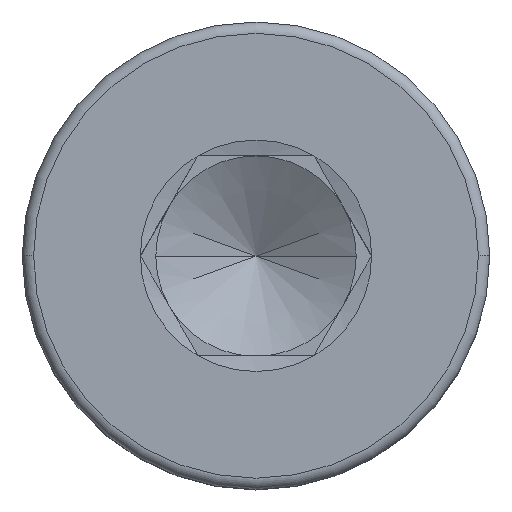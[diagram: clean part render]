
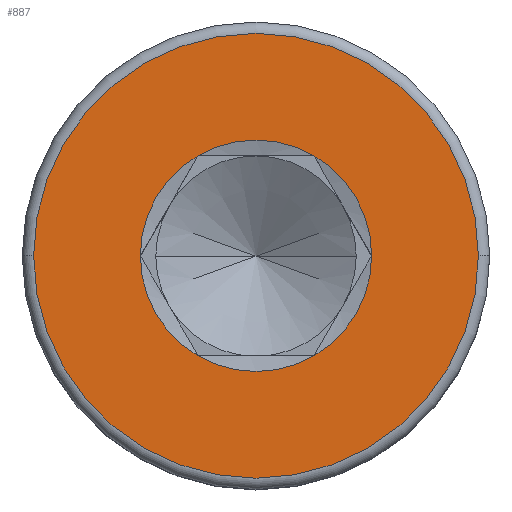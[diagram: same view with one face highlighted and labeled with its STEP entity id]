
A CAD part, top view. The second image highlights one B-rep face of the part: STEP entity #887.
In plain terms, the highlighted planar face has unit normal (0, 0, 1).
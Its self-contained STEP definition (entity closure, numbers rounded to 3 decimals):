
#12 = AXIS2_PLACEMENT_3D ( 'NONE', #1348, #251, #100 ) ;
#28 = DIRECTION ( 'NONE',  ( 0., 0., 1. ) ) ;
#46 = DIRECTION ( 'NONE',  ( 0., 0., 1. ) ) ;
#51 = AXIS2_PLACEMENT_3D ( 'NONE', #1787, #417, #526 ) ;
#59 = CARTESIAN_POINT ( 'NONE',  ( 0., 0., 4. ) ) ;
#64 = CIRCLE ( 'NONE', #1684, 1.732 ) ;
#100 = DIRECTION ( 'NONE',  ( 1., 0., 0. ) ) ;
#127 = EDGE_CURVE ( 'NONE', #1105, #238, #1625, .T. ) ;
#144 = VERTEX_POINT ( 'NONE', #433 ) ;
#161 = AXIS2_PLACEMENT_3D ( 'NONE', #707, #772, #488 ) ;
#211 = EDGE_LOOP ( 'NONE', ( #1775, #1643 ) ) ;
#233 = AXIS2_PLACEMENT_3D ( 'NONE', #59, #46, #464 ) ;
#235 = FACE_OUTER_BOUND ( 'NONE', #211, .T. ) ;
#238 = VERTEX_POINT ( 'NONE', #329 ) ;
#251 = DIRECTION ( 'NONE',  ( 0., 0., 1. ) ) ;
#275 = DIRECTION ( 'NONE',  ( 1., 0., 0. ) ) ;
#300 = DIRECTION ( 'NONE',  ( 1., 0., 0. ) ) ;
#321 = CARTESIAN_POINT ( 'NONE',  ( 0., 0., 4. ) ) ;
#329 = CARTESIAN_POINT ( 'NONE',  ( -1.732, 0., 4. ) ) ;
#341 = CIRCLE ( 'NONE', #600, 1.732 ) ;
#342 = CARTESIAN_POINT ( 'NONE',  ( -3.33, 0., 4. ) ) ;
#385 = DIRECTION ( 'NONE',  ( 0., 0., 1. ) ) ;
#417 = DIRECTION ( 'NONE',  ( 0., 0., 1. ) ) ;
#433 = CARTESIAN_POINT ( 'NONE',  ( 0.866, -1.5, 4. ) ) ;
#442 = VERTEX_POINT ( 'NONE', #1772 ) ;
#457 = AXIS2_PLACEMENT_3D ( 'NONE', #673, #28, #701 ) ;
#464 = DIRECTION ( 'NONE',  ( 1., 0., 0. ) ) ;
#465 = CIRCLE ( 'NONE', #161, 3.33 ) ;
#488 = DIRECTION ( 'NONE',  ( 1., 0., 0. ) ) ;
#526 = DIRECTION ( 'NONE',  ( 1., 0., 0. ) ) ;
#599 = EDGE_CURVE ( 'NONE', #784, #1105, #1398, .T. ) ;
#600 = AXIS2_PLACEMENT_3D ( 'NONE', #1530, #385, #275 ) ;
#625 = ORIENTED_EDGE ( 'NONE', *, *, #1235, .F. ) ;
#647 = CARTESIAN_POINT ( 'NONE',  ( -0.866, -1.5, 4. ) ) ;
#665 = ORIENTED_EDGE ( 'NONE', *, *, #127, .F. ) ;
#668 = EDGE_CURVE ( 'NONE', #238, #913, #1006, .T. ) ;
#673 = CARTESIAN_POINT ( 'NONE',  ( 0., 0., 4. ) ) ;
#697 = VERTEX_POINT ( 'NONE', #1162 ) ;
#701 = DIRECTION ( 'NONE',  ( 1., 0., 0. ) ) ;
#705 = DIRECTION ( 'NONE',  ( 1., 0., 0. ) ) ;
#707 = CARTESIAN_POINT ( 'NONE',  ( 0., 0., 4. ) ) ;
#735 = EDGE_LOOP ( 'NONE', ( #625, #1325, #1525, #1019, #665, #799 ) ) ;
#743 = EDGE_CURVE ( 'NONE', #913, #144, #1596, .T. ) ;
#772 = DIRECTION ( 'NONE',  ( 0., 0., 1. ) ) ;
#773 = PLANE ( 'NONE',  #12 ) ;
#784 = VERTEX_POINT ( 'NONE', #997 ) ;
#799 = ORIENTED_EDGE ( 'NONE', *, *, #599, .F. ) ;
#805 = CARTESIAN_POINT ( 'NONE',  ( 0., 0., 4. ) ) ;
#813 = DIRECTION ( 'NONE',  ( 0., 0., 1. ) ) ;
#827 = AXIS2_PLACEMENT_3D ( 'NONE', #1115, #1675, #1655 ) ;
#887 = ADVANCED_FACE ( 'NONE', ( #235, #928 ), #773, .T. ) ;
#913 = VERTEX_POINT ( 'NONE', #647 ) ;
#928 = FACE_BOUND ( 'NONE', #735, .T. ) ;
#976 = EDGE_CURVE ( 'NONE', #144, #442, #64, .T. ) ;
#997 = CARTESIAN_POINT ( 'NONE',  ( 0.866, 1.5, 4. ) ) ;
#1006 = CIRCLE ( 'NONE', #233, 1.732 ) ;
#1019 = ORIENTED_EDGE ( 'NONE', *, *, #668, .F. ) ;
#1105 = VERTEX_POINT ( 'NONE', #1484 ) ;
#1115 = CARTESIAN_POINT ( 'NONE',  ( 0., 0., 4. ) ) ;
#1162 = CARTESIAN_POINT ( 'NONE',  ( 3.33, 0., 4. ) ) ;
#1235 = EDGE_CURVE ( 'NONE', #442, #784, #341, .T. ) ;
#1325 = ORIENTED_EDGE ( 'NONE', *, *, #976, .F. ) ;
#1348 = CARTESIAN_POINT ( 'NONE',  ( 0., 0., 4. ) ) ;
#1398 = CIRCLE ( 'NONE', #457, 1.732 ) ;
#1441 = DIRECTION ( 'NONE',  ( 0., 0., 1. ) ) ;
#1484 = CARTESIAN_POINT ( 'NONE',  ( -0.866, 1.5, 4. ) ) ;
#1485 = AXIS2_PLACEMENT_3D ( 'NONE', #321, #1441, #300 ) ;
#1506 = EDGE_CURVE ( 'NONE', #1618, #697, #465, .T. ) ;
#1525 = ORIENTED_EDGE ( 'NONE', *, *, #743, .F. ) ;
#1530 = CARTESIAN_POINT ( 'NONE',  ( 0., 0., 4. ) ) ;
#1596 = CIRCLE ( 'NONE', #1485, 1.732 ) ;
#1618 = VERTEX_POINT ( 'NONE', #342 ) ;
#1625 = CIRCLE ( 'NONE', #827, 1.732 ) ;
#1643 = ORIENTED_EDGE ( 'NONE', *, *, #1506, .T. ) ;
#1655 = DIRECTION ( 'NONE',  ( 1., 0., 0. ) ) ;
#1675 = DIRECTION ( 'NONE',  ( 0., 0., 1. ) ) ;
#1684 = AXIS2_PLACEMENT_3D ( 'NONE', #805, #813, #705 ) ;
#1697 = CIRCLE ( 'NONE', #51, 3.33 ) ;
#1755 = EDGE_CURVE ( 'NONE', #697, #1618, #1697, .T. ) ;
#1772 = CARTESIAN_POINT ( 'NONE',  ( 1.732, 0., 4. ) ) ;
#1775 = ORIENTED_EDGE ( 'NONE', *, *, #1755, .T. ) ;
#1787 = CARTESIAN_POINT ( 'NONE',  ( 0., 0., 4. ) ) ;
